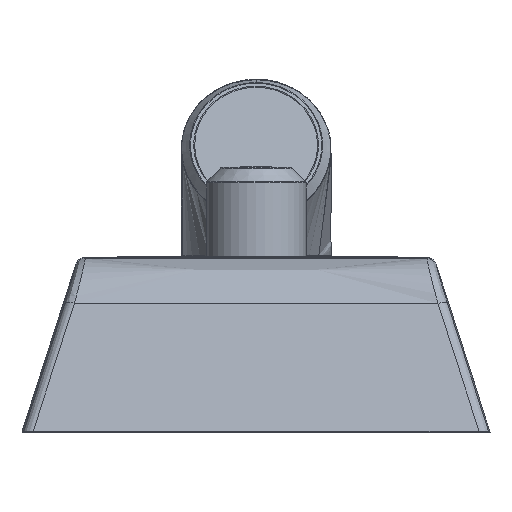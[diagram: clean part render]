
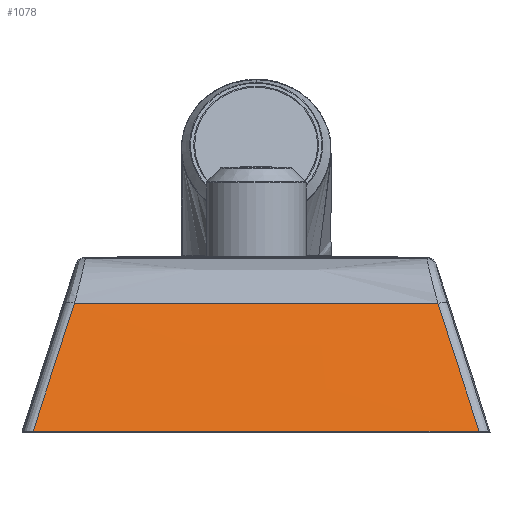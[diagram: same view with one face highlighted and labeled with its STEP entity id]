
A CAD part, front view. The second image highlights one B-rep face of the part: STEP entity #1078.
In plain terms, the highlighted free-form (B-spline) face has degree [3, 3] with [4, 4] control points.
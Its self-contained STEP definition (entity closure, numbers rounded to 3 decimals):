
#25 = CARTESIAN_POINT ( 'NONE',  ( 109.52, -23.175, 0.793 ) ) ;
#72 = CARTESIAN_POINT ( 'NONE',  ( 29.763, -2.008, 64.81 ) ) ;
#265 = CARTESIAN_POINT ( 'NONE',  ( 89.294, -2.098, 63.566 ) ) ;
#567 = ORIENTED_EDGE ( 'NONE', *, *, #5295, .T. ) ;
#756 = B_SPLINE_CURVE_WITH_KNOTS ( 'NONE', 3,
 ( #1833, #1782, #5041, #9034 ),
 .UNSPECIFIED., .F., .F.,
 ( 4, 4 ),
 ( 0., 1. ),
 .UNSPECIFIED. ) ;
#834 = CARTESIAN_POINT ( 'NONE',  ( 34.26, -16.114, 22.132 ) ) ;
#1078 = ADVANCED_FACE ( 'NONE', ( #9920 ), #2632, .T. ) ;
#1119 = ORIENTED_EDGE ( 'NONE', *, *, #3129, .T. ) ;
#1782 = CARTESIAN_POINT ( 'NONE',  ( 102.782, -16.144, 21.717 ) ) ;
#1833 = CARTESIAN_POINT ( 'NONE',  ( 109.52, -23.175, 0.793 ) ) ;
#1842 = CARTESIAN_POINT ( 'NONE',  ( 29.763, -2.008, 64.81 ) ) ;
#2157 = CARTESIAN_POINT ( 'NONE',  ( 109.52, -23.175, 0.793 ) ) ;
#2211 = CARTESIAN_POINT ( 'NONE',  ( -109.52, -23.175, 0.793 ) ) ;
#2508 = CARTESIAN_POINT ( 'NONE',  ( 102.782, -16.144, 21.717 ) ) ;
#2632 = B_SPLINE_SURFACE_WITH_KNOTS ( 'NONE', 3, 3, ( 
 ( #8244, #3965, #7424, #4013 ),
 ( #3157, #5726, #9004, #7282 ),
 ( #9823, #834, #10583, #72 ),
 ( #25, #2508, #9770, #3356 ) ),
 .UNSPECIFIED., .F., .F., .F.,
 ( 4, 4 ),
 ( 4, 4 ),
 ( 0., 1. ),
 ( 0., 1. ),
 .UNSPECIFIED. ) ;
#2689 = VERTEX_POINT ( 'NONE', #3310 ) ;
#3129 = EDGE_CURVE ( 'NONE', #6357, #7870, #756, .T. ) ;
#3157 = CARTESIAN_POINT ( 'NONE',  ( -36.507, -23.175, 0.793 ) ) ;
#3310 = CARTESIAN_POINT ( 'NONE',  ( -109.52, -23.175, 0.793 ) ) ;
#3356 = CARTESIAN_POINT ( 'NONE',  ( 89.294, -2.098, 63.566 ) ) ;
#3440 = EDGE_LOOP ( 'NONE', ( #6398, #1119, #10341, #567 ) ) ;
#3965 = CARTESIAN_POINT ( 'NONE',  ( -102.779, -16.141, 21.727 ) ) ;
#4013 = CARTESIAN_POINT ( 'NONE',  ( -89.284, -2.089, 63.595 ) ) ;
#4184 = B_SPLINE_CURVE_WITH_KNOTS ( 'NONE', 3,
 ( #4766, #4921, #8198, #5682 ),
 .UNSPECIFIED., .F., .F.,
 ( 4, 4 ),
 ( 0., 1. ),
 .UNSPECIFIED. ) ;
#4300 = CARTESIAN_POINT ( 'NONE',  ( -29.757, -2.004, 64.82 ) ) ;
#4428 = CARTESIAN_POINT ( 'NONE',  ( -89.284, -2.089, 63.595 ) ) ;
#4766 = CARTESIAN_POINT ( 'NONE',  ( -89.284, -2.089, 63.595 ) ) ;
#4871 = VERTEX_POINT ( 'NONE', #4428 ) ;
#4921 = CARTESIAN_POINT ( 'NONE',  ( -96.035, -9.11, 42.661 ) ) ;
#5041 = CARTESIAN_POINT ( 'NONE',  ( 96.041, -9.117, 42.641 ) ) ;
#5295 = EDGE_CURVE ( 'NONE', #4871, #2689, #4184, .T. ) ;
#5427 = B_SPLINE_CURVE_WITH_KNOTS ( 'NONE', 3,
 ( #265, #1842, #4300, #6865 ),
 .UNSPECIFIED., .F., .F.,
 ( 4, 4 ),
 ( 0., 1. ),
 .UNSPECIFIED. ) ;
#5476 = CARTESIAN_POINT ( 'NONE',  ( 91.266, -23.175, 0.793 ) ) ;
#5527 = CARTESIAN_POINT ( 'NONE',  ( -91.266, -23.175, 0.793 ) ) ;
#5682 = CARTESIAN_POINT ( 'NONE',  ( -109.52, -23.175, 0.793 ) ) ;
#5726 = CARTESIAN_POINT ( 'NONE',  ( -34.258, -16.112, 22.135 ) ) ;
#6047 = B_SPLINE_CURVE_WITH_KNOTS ( 'NONE', 3,
 ( #2211, #5527, #6173, #7777, #10274, #5476, #2157 ),
 .UNSPECIFIED., .F., .F.,
 ( 4, 1, 1, 1, 4 ),
 ( 0.093, 0.296, 0.5, 0.704, 0.907 ),
 .UNSPECIFIED. ) ;
#6173 = CARTESIAN_POINT ( 'NONE',  ( -54.76, -23.175, 0.793 ) ) ;
#6357 = VERTEX_POINT ( 'NONE', #8330 ) ;
#6398 = ORIENTED_EDGE ( 'NONE', *, *, #7965, .T. ) ;
#6865 = CARTESIAN_POINT ( 'NONE',  ( -89.284, -2.089, 63.595 ) ) ;
#7282 = CARTESIAN_POINT ( 'NONE',  ( -29.757, -2.004, 64.82 ) ) ;
#7424 = CARTESIAN_POINT ( 'NONE',  ( -96.035, -9.11, 42.661 ) ) ;
#7777 = CARTESIAN_POINT ( 'NONE',  ( 0., -23.175, 0.793 ) ) ;
#7870 = VERTEX_POINT ( 'NONE', #10003 ) ;
#7965 = EDGE_CURVE ( 'NONE', #2689, #6357, #6047, .T. ) ;
#8198 = CARTESIAN_POINT ( 'NONE',  ( -102.779, -16.141, 21.727 ) ) ;
#8244 = CARTESIAN_POINT ( 'NONE',  ( -109.52, -23.175, 0.793 ) ) ;
#8330 = CARTESIAN_POINT ( 'NONE',  ( 109.52, -23.175, 0.793 ) ) ;
#9004 = CARTESIAN_POINT ( 'NONE',  ( -32.009, -9.054, 43.477 ) ) ;
#9034 = CARTESIAN_POINT ( 'NONE',  ( 89.294, -2.098, 63.566 ) ) ;
#9770 = CARTESIAN_POINT ( 'NONE',  ( 96.041, -9.117, 42.641 ) ) ;
#9823 = CARTESIAN_POINT ( 'NONE',  ( 36.507, -23.175, 0.793 ) ) ;
#9920 = FACE_OUTER_BOUND ( 'NONE', #3440, .T. ) ;
#10003 = CARTESIAN_POINT ( 'NONE',  ( 89.294, -2.098, 63.566 ) ) ;
#10274 = CARTESIAN_POINT ( 'NONE',  ( 54.76, -23.175, 0.793 ) ) ;
#10341 = ORIENTED_EDGE ( 'NONE', *, *, #10608, .T. ) ;
#10583 = CARTESIAN_POINT ( 'NONE',  ( 32.013, -9.057, 43.471 ) ) ;
#10608 = EDGE_CURVE ( 'NONE', #7870, #4871, #5427, .T. ) ;
